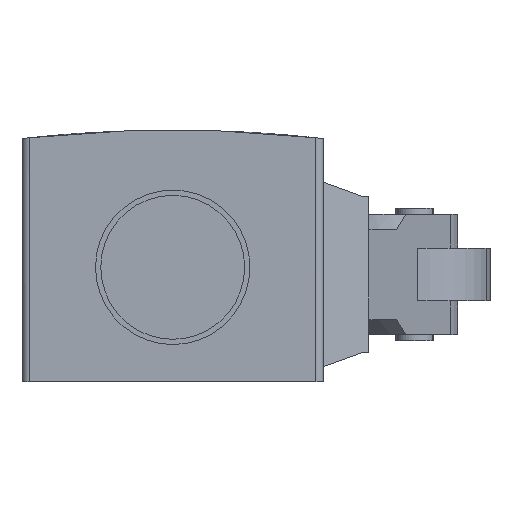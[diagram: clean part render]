
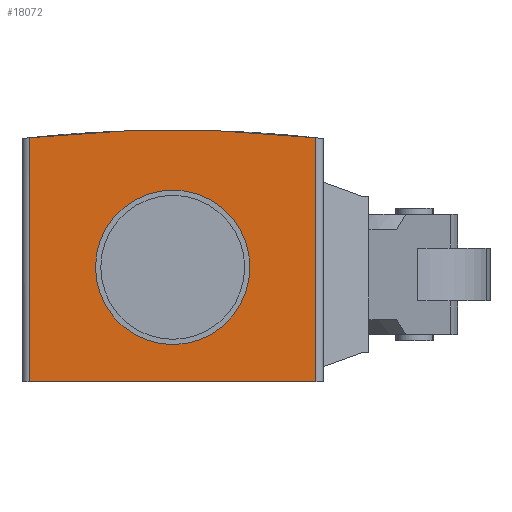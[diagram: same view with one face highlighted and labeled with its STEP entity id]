
A CAD part, front view. The second image highlights one B-rep face of the part: STEP entity #18072.
In plain terms, the highlighted planar face has unit normal (0, -1, 0).
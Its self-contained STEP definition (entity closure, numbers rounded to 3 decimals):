
#159 = LINE ( 'NONE', #11049, #7353 ) ;
#615 = CARTESIAN_POINT ( 'NONE',  ( -19., -45.5, 18.144 ) ) ;
#795 = VERTEX_POINT ( 'NONE', #615 ) ;
#974 = EDGE_CURVE ( 'NONE', #9173, #795, #159, .T. ) ;
#1435 = FACE_OUTER_BOUND ( 'NONE', #4750, .T. ) ;
#1832 = EDGE_CURVE ( 'NONE', #7782, #13727, #5961, .T. ) ;
#1857 = EDGE_LOOP ( 'NONE', ( #6104, #10461 ) ) ;
#2225 = ORIENTED_EDGE ( 'NONE', *, *, #9958, .T. ) ;
#2750 = LINE ( 'NONE', #15149, #6118 ) ;
#2785 = PLANE ( 'NONE',  #13445 ) ;
#2841 = CARTESIAN_POINT ( 'NONE',  ( -19., -45.5, -14.25 ) ) ;
#3622 = DIRECTION ( 'NONE',  ( 0., -1., 0. ) ) ;
#3799 = CARTESIAN_POINT ( 'NONE',  ( 0., -45.5, -160.85 ) ) ;
#3898 = DIRECTION ( 'NONE',  ( 0., 0., 1. ) ) ;
#4015 = CARTESIAN_POINT ( 'NONE',  ( 19., -45.5, -14.25 ) ) ;
#4275 = EDGE_CURVE ( 'NONE', #18013, #18358, #14367, .T. ) ;
#4290 = CIRCLE ( 'NONE', #13174, 180. ) ;
#4750 = EDGE_LOOP ( 'NONE', ( #2225, #6506, #15859, #16426 ) ) ;
#5107 = AXIS2_PLACEMENT_3D ( 'NONE', #12236, #3622, #13672 ) ;
#5240 = DIRECTION ( 'NONE',  ( 1., 0., 0. ) ) ;
#5496 = CARTESIAN_POINT ( 'NONE',  ( 0., -45.5, 0.95 ) ) ;
#5961 = CIRCLE ( 'NONE', #10551, 10.25 ) ;
#6104 = ORIENTED_EDGE ( 'NONE', *, *, #1832, .F. ) ;
#6118 = VECTOR ( 'NONE', #6567, 1000. ) ;
#6506 = ORIENTED_EDGE ( 'NONE', *, *, #974, .F. ) ;
#6567 = DIRECTION ( 'NONE',  ( 1., 0., 0. ) ) ;
#6954 = DIRECTION ( 'NONE',  ( 0., 0., -1. ) ) ;
#7232 = CIRCLE ( 'NONE', #5107, 10.25 ) ;
#7353 = VECTOR ( 'NONE', #3898, 1000. ) ;
#7642 = VECTOR ( 'NONE', #16986, 1000. ) ;
#7782 = VERTEX_POINT ( 'NONE', #9203 ) ;
#8550 = DIRECTION ( 'NONE',  ( 1., 0., 0. ) ) ;
#9173 = VERTEX_POINT ( 'NONE', #2841 ) ;
#9203 = CARTESIAN_POINT ( 'NONE',  ( 0., -45.5, -9.3 ) ) ;
#9958 = EDGE_CURVE ( 'NONE', #18358, #795, #4290, .T. ) ;
#10461 = ORIENTED_EDGE ( 'NONE', *, *, #17372, .F. ) ;
#10551 = AXIS2_PLACEMENT_3D ( 'NONE', #5496, #15545, #6954 ) ;
#11049 = CARTESIAN_POINT ( 'NONE',  ( -19., -45.5, -14.25 ) ) ;
#12236 = CARTESIAN_POINT ( 'NONE',  ( 0., -45.5, 0.95 ) ) ;
#12428 = FACE_BOUND ( 'NONE', #1857, .T. ) ;
#13174 = AXIS2_PLACEMENT_3D ( 'NONE', #3799, #13859, #5240 ) ;
#13445 = AXIS2_PLACEMENT_3D ( 'NONE', #14275, #17134, #8550 ) ;
#13672 = DIRECTION ( 'NONE',  ( 0., 0., -1. ) ) ;
#13727 = VERTEX_POINT ( 'NONE', #18392 ) ;
#13859 = DIRECTION ( 'NONE',  ( 0., -1., 0. ) ) ;
#14275 = CARTESIAN_POINT ( 'NONE',  ( 19., -45.5, -14.25 ) ) ;
#14367 = LINE ( 'NONE', #15557, #7642 ) ;
#15149 = CARTESIAN_POINT ( 'NONE',  ( 19., -45.5, -14.25 ) ) ;
#15545 = DIRECTION ( 'NONE',  ( 0., -1., 0. ) ) ;
#15557 = CARTESIAN_POINT ( 'NONE',  ( 19., -45.5, -14.25 ) ) ;
#15859 = ORIENTED_EDGE ( 'NONE', *, *, #16229, .T. ) ;
#16229 = EDGE_CURVE ( 'NONE', #9173, #18013, #2750, .T. ) ;
#16426 = ORIENTED_EDGE ( 'NONE', *, *, #4275, .T. ) ;
#16986 = DIRECTION ( 'NONE',  ( 0., 0., 1. ) ) ;
#17134 = DIRECTION ( 'NONE',  ( 0., -1., 0. ) ) ;
#17372 = EDGE_CURVE ( 'NONE', #13727, #7782, #7232, .T. ) ;
#17887 = CARTESIAN_POINT ( 'NONE',  ( 19., -45.5, 18.144 ) ) ;
#18013 = VERTEX_POINT ( 'NONE', #4015 ) ;
#18072 = ADVANCED_FACE ( 'NONE', ( #1435, #12428 ), #2785, .T. ) ;
#18358 = VERTEX_POINT ( 'NONE', #17887 ) ;
#18392 = CARTESIAN_POINT ( 'NONE',  ( 0., -45.5, 11.2 ) ) ;
